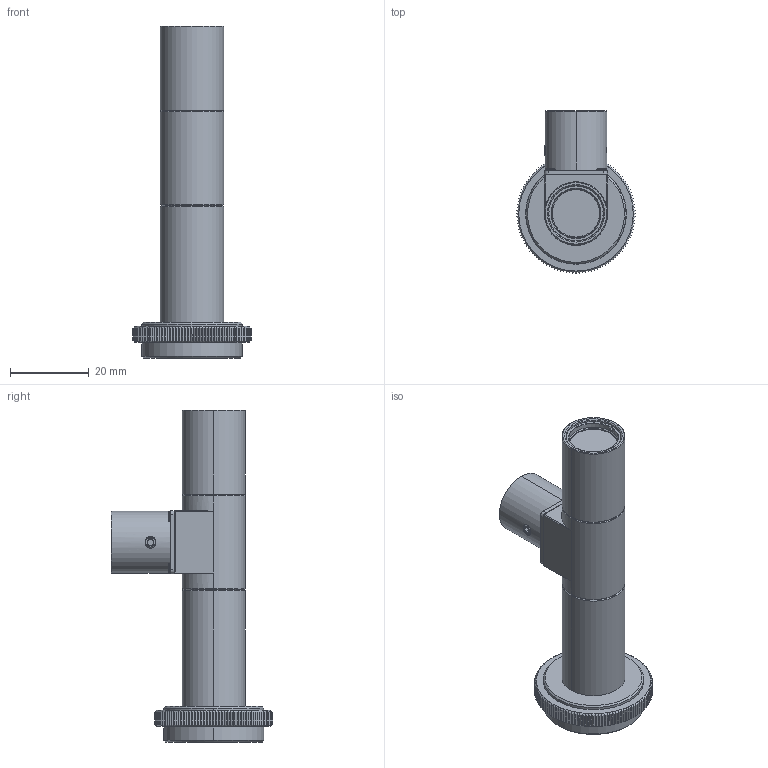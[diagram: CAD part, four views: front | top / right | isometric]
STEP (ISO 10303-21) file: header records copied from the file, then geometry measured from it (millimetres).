
FILE_DESCRIPTION (( 'STEP AP203' ), '1' );
FILE_NAME ('MML2-ST65D_A03395A0100101A-002.STEP', '2013-04-01T01:24:35', ( 'MML Group' ), ( 'MORITEX' ), 'SwSTEP 2.0', 'SolidWorks 2011', '' );
FILE_SCHEMA (( 'CONFIG_CONTROL_DESIGN' ));
Length unit declared in the file: millimetre
Products named in the file (1): MML2-ST65D_A03395A0100101A-002
Bounding box: 30 x 41 x 84.12 mm (x, y, z)
Volume: 16903.6 mm3; surface area: 9637.7 mm2
Topology: 1 solids, 12 shells, 634 faces, 1639 edges, 1027 vertices
Faces by surface type: plane 401, cone 129, cylinder 80, torus 16, sphere 8
Entity records: 20043 total; most frequent: CARTESIAN_POINT 5535, ORIENTED_EDGE 3246, DIRECTION 2698, EDGE_CURVE 1623, AXIS2_PLACEMENT_3D 1082, VERTEX_POINT 1027, EDGE_LOOP 664, ADVANCED_FACE 634
